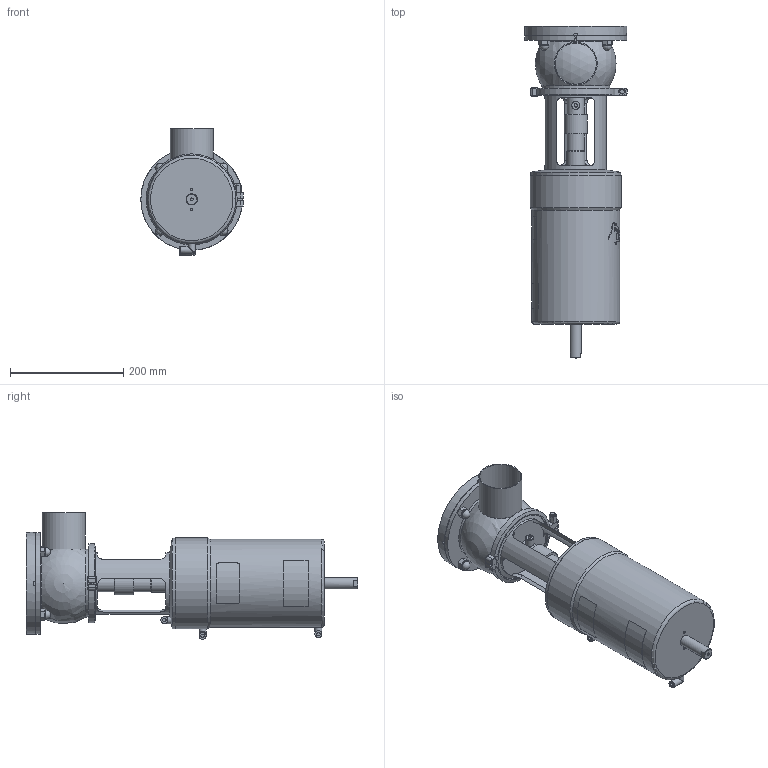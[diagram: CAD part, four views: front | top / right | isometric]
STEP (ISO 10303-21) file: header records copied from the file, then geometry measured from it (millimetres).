
FILE_DESCRIPTION (( 'STEP AP214' ), '1' );
FILE_NAME ('INNOVA T L W OD 3 WITH FLANGE_10.252.16.0005.STEP', '2024-08-21T11:30:32', ( '' ), ( '' ), 'SwSTEP 2.0', 'SolidWorks 2023', '' );
FILE_SCHEMA (( 'AUTOMOTIVE_DESIGN' ));
Length unit declared in the file: millimetre
Products named in the file (6): 10.240.15.0001_DN 080; 10.250.15.0002_Type T T2; INNOVA T L W OD 3 WITH FLANGE_10.252.16.0005; 10.252.15.0001_OD 3"; 10.248.15.0003_DIN 080 _ OD 3"; 10.240.15.0006_OD 3"
Assembly tree (5 placements, depth 2):
  INNOVA T L W OD 3 WITH FLANGE_10.252.16.0005
    10.240.15.0006_OD 3"
    10.248.15.0003_DIN 080 _ OD 3"
    10.252.15.0001_OD 3"
    10.250.15.0002_Type T T2
    10.240.15.0001_DN 080
Bounding box: 181 x 587.43 x 224 mm (x, y, z)
Volume: 7571331.8 mm3; surface area: 517475.9 mm2
Topology: 5 solids, 5 shells, 415 faces, 1083 edges, 707 vertices
Faces by surface type: plane 196, cylinder 109, bspline 82, cone 21, sphere 6, torus 1
Full cylindrical faces by diameter (mm): 4.2 x2, 5 x1, 6 x1, 6.15 x3, 8 x2, 10.5 x3, 12 x1, 12.5 x9, 14 x2, 16 x4, 20 x1, 30.5 x2, 32 x1, 41 x1, 72.9 x1, 76.2 x1, 109 x1, 110 x1, 120 x2, 132 x3, 143 x1, 156 x1, 160 x1, 161 x1, 180 x1
Entity records: 23875 total; most frequent: CARTESIAN_POINT 12829, ORIENTED_EDGE 1958, DIRECTION 1575, EDGE_CURVE 979, VERTEX_POINT 679, AXIS2_PLACEMENT_3D 591, EDGE_LOOP 530, FACE_OUTER_BOUND 466
